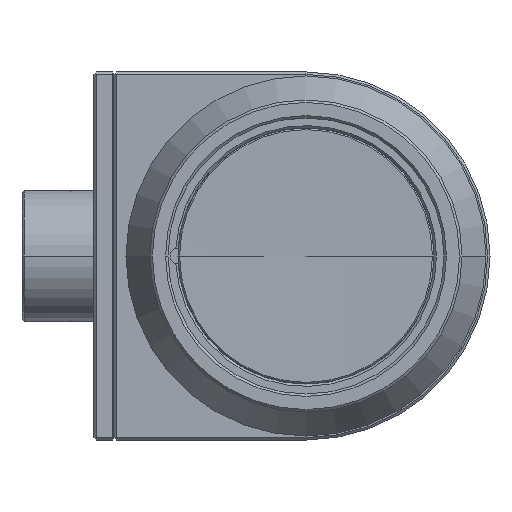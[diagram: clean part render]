
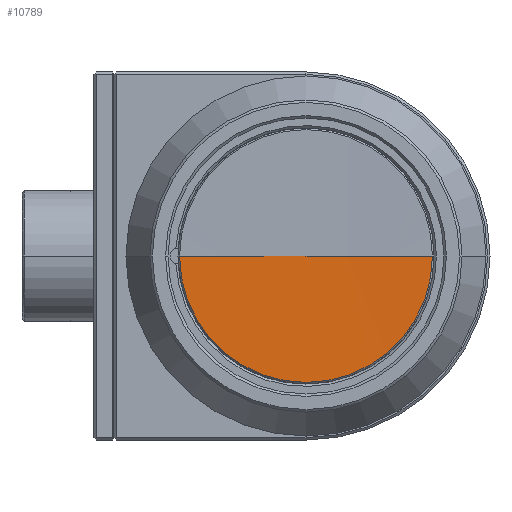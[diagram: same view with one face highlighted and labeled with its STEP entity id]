
A CAD part, left-side view. The second image highlights one B-rep face of the part: STEP entity #10789.
In plain terms, the highlighted spherical face has radius 1004.78 mm.
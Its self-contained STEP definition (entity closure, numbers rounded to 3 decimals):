
#139=CARTESIAN_POINT('',(-1057.176,0.,0.));
#140=DIRECTION('',(0.,0.,-1.));
#141=DIRECTION('',(1.,0.016,0.));
#142=AXIS2_PLACEMENT_3D('',#139,#140,#141);
#144=CARTESIAN_POINT('',(-1057.176,0.,0.));
#145=DIRECTION('',(0.,0.,1.));
#146=DIRECTION('',(1.,-0.016,0.));
#147=AXIS2_PLACEMENT_3D('',#144,#145,#146);
#149=CARTESIAN_POINT('',(-52.518,0.,0.));
#150=DIRECTION('',(-1.,0.,0.));
#151=DIRECTION('',(0.,1.,0.));
#152=AXIS2_PLACEMENT_3D('',#149,#150,#151);
#9181=CARTESIAN_POINT('',(-52.518,15.803,0.));
#9182=CARTESIAN_POINT('',(-52.394,0.,0.));
#9183=VERTEX_POINT('',#9181);
#9184=VERTEX_POINT('',#9182);
#9185=CARTESIAN_POINT('',(-52.518,-15.803,0.));
#9186=VERTEX_POINT('',#9185);
#10777=CARTESIAN_POINT('',(-1057.176,0.,0.));
#10778=DIRECTION('',(1.,0.,0.));
#10779=DIRECTION('',(0.,-1.,0.));
#10780=AXIS2_PLACEMENT_3D('',#10777,#10778,#10779);
#10781=SPHERICAL_SURFACE('',#10780,1004.782);
#10783=ORIENTED_EDGE('',*,*,#10782,.T.);
#10785=ORIENTED_EDGE('',*,*,#10784,.F.);
#10786=ORIENTED_EDGE('',*,*,#10763,.F.);
#10787=EDGE_LOOP('',(#10783,#10785,#10786));
#10788=FACE_OUTER_BOUND('',#10787,.F.);
#143=CIRCLE('',#142,1004.782);
#148=CIRCLE('',#147,1004.782);
#153=CIRCLE('',#152,15.803);
#10763=EDGE_CURVE('',#9183,#9186,#153,.T.);
#10782=EDGE_CURVE('',#9183,#9184,#143,.T.);
#10784=EDGE_CURVE('',#9186,#9184,#148,.T.);
#10789=ADVANCED_FACE('',(#10788),#10781,.F.);
